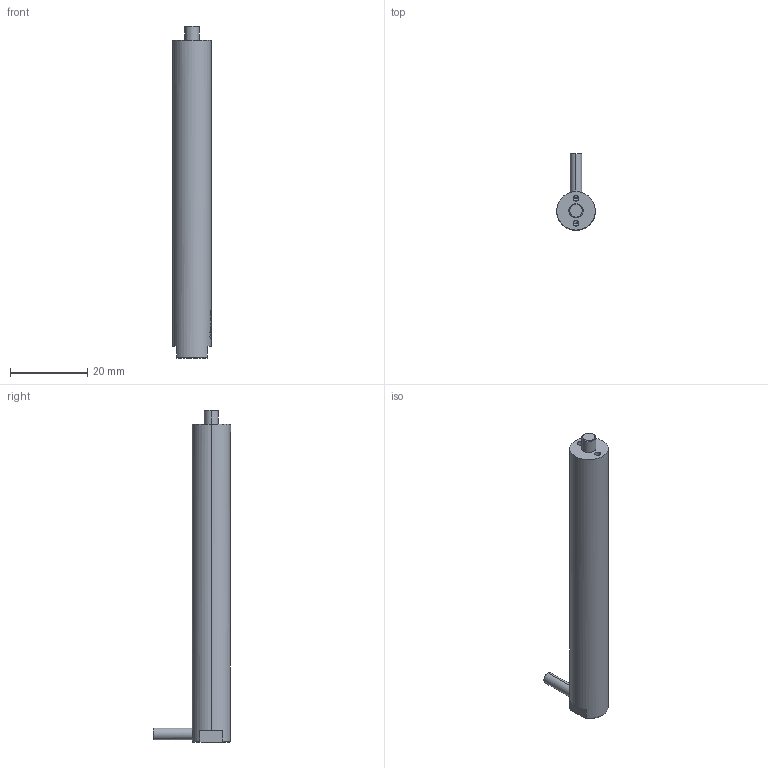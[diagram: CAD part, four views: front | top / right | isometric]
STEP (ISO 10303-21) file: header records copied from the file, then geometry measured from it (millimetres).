
FILE_DESCRIPTION (( 'STEP AP203' ), '1' );
FILE_NAME ('80VS10ƽͷ.STEP', '2024-12-10T06:31:31', ( 'daohangxitong.com' ), ( 'daohangxitong.com' ), 'SwSTEP 2.0', 'SolidWorks 2016', '' );
FILE_SCHEMA (( 'CONFIG_CONTROL_DESIGN' ));
Length unit declared in the file: millimetre
Products named in the file (1): 80VS10ƽͷ
Bounding box: 10 x 20 x 86.2 mm (x, y, z)
Volume: 6533.6 mm3; surface area: 2949.1 mm2
Topology: 1 solids, 1 shells, 667 faces, 1893 edges, 1254 vertices
Faces by surface type: bspline 578, cylinder 48, plane 29, cone 12
Entity records: 38574 total; most frequent: CARTESIAN_POINT 26390, ORIENTED_EDGE 3774, EDGE_CURVE 1887, B_SPLINE_CURVE_WITH_KNOTS 1772, VERTEX_POINT 1254, EDGE_LOOP 699, ADVANCED_FACE 667, FACE_OUTER_BOUND 667
